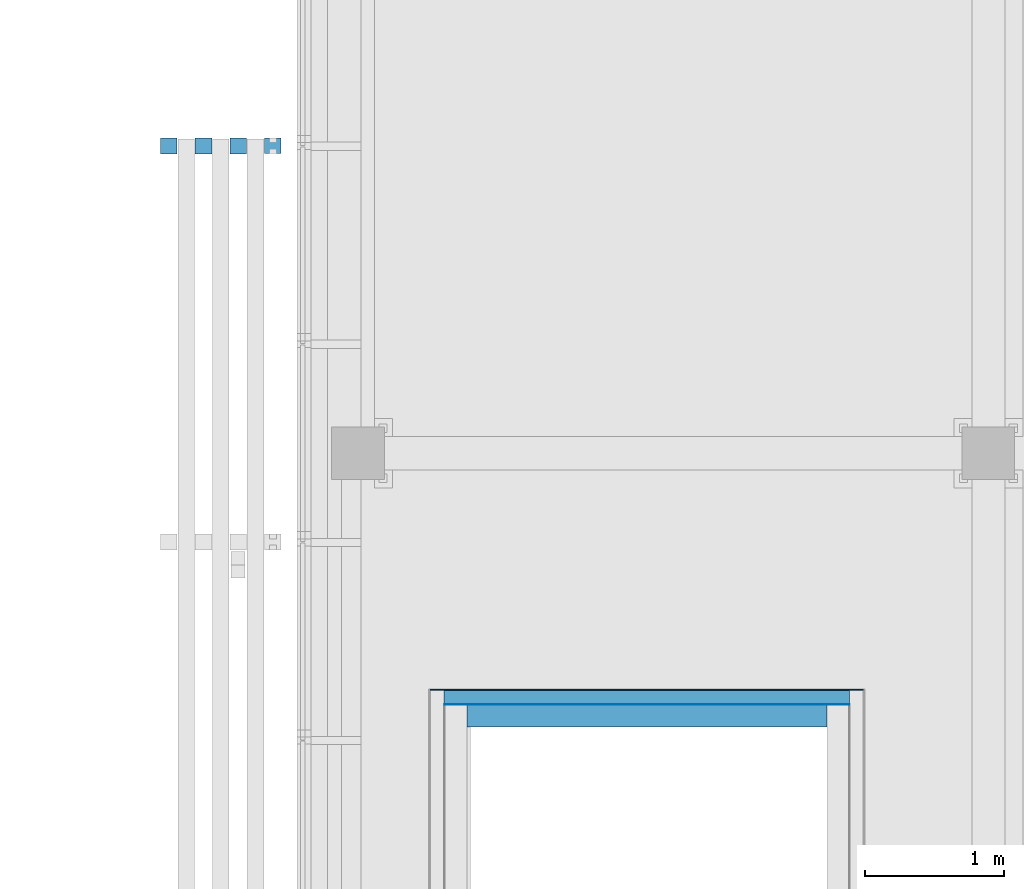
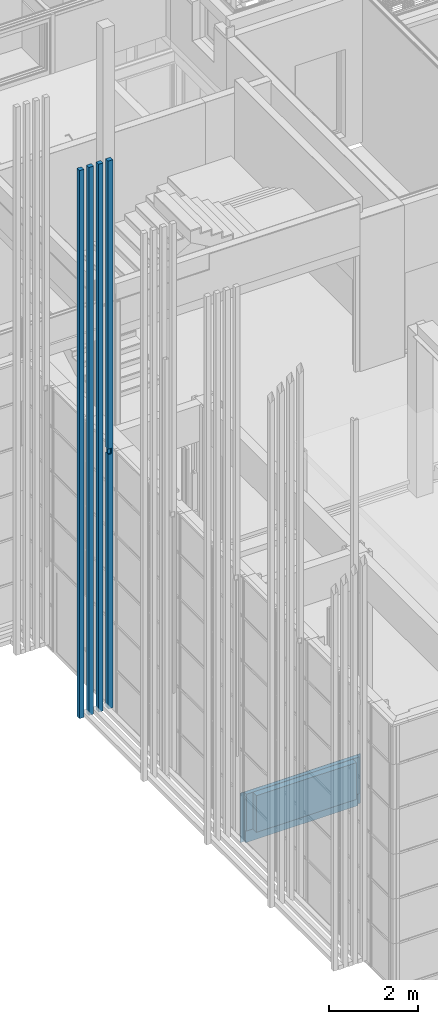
# One storey, part 140 of 260: 4 building element parts, 1 discrete accessory, 1 element without a shape of its own.
"""IFC2X3 building model written with IfcOpenShell, lengths in millimetres."""

from ifc_helpers import new_model, entity, si_unit, converted_unit, derived_unit, money_unit, direction, frame, origin_with_axes, place, context, subcontext, project, spatial, faceted_brep, material, material_list, type_object, element, aggregate, save


model = new_model("IFC2X3")

# Units and contexts
model_context = context("Model", 3, precision=0.01, world=origin_with_axes(), true_north=direction((0.0, 1.0)))
body_context = subcontext(model_context, "Body", "Model", "MODEL_VIEW")
ifc_project = project(units=[si_unit("LENGTHUNIT", "METRE", prefix="MILLI"), si_unit("AREAUNIT", "SQUARE_METRE"), si_unit("VOLUMEUNIT", "CUBIC_METRE"), converted_unit("PLANEANGLEUNIT", "DEGREE", entity("IfcPlaneAngleMeasure", 0.0174532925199), si_unit("PLANEANGLEUNIT", "RADIAN"), dimensions=[0, 0, 0, 0, 0, 0, 0]), money_unit("EUR"), converted_unit("TIMEUNIT", "Year", entity("IfcTimeMeasure", 31556926.0), si_unit("TIMEUNIT", "SECOND"), dimensions=[0, 0, 1, 0, 0, 0, 0]), si_unit("MASSUNIT", "GRAM", prefix="KILO"), si_unit("THERMODYNAMICTEMPERATUREUNIT", "DEGREE_CELSIUS"), si_unit("LUMINOUSINTENSITYUNIT", "LUMEN"), si_unit("ENERGYUNIT", "JOULE", prefix="MEGA"), derived_unit("THERMALCONDUCTANCEUNIT", [(si_unit("POWERUNIT", "WATT"), 1), (si_unit("LENGTHUNIT", "METRE"), -1), (si_unit("THERMODYNAMICTEMPERATUREUNIT", "KELVIN"), -1)]), derived_unit("SPECIFICHEATCAPACITYUNIT", [(si_unit("ENERGYUNIT", "JOULE"), 1), (si_unit("MASSUNIT", "GRAM", prefix="KILO"), -1), (si_unit("THERMODYNAMICTEMPERATUREUNIT", "KELVIN"), -1)]), derived_unit("MASSDENSITYUNIT", [(si_unit("MASSUNIT", "GRAM", prefix="KILO"), 1), (si_unit("VOLUMEUNIT", "CUBIC_METRE"), -1)])], contexts=[model_context])

# Site, building, storey
site_placement = place(None, origin_with_axes())
site = spatial("IfcSite", under=ifc_project, at=site_placement, Name="Kolde pst 67a", CompositionType="ELEMENT")
building_placement = place(site_placement, origin_with_axes())
building = spatial("IfcBuilding", under=site, at=building_placement, Name="Riigigümnaasium", CompositionType="ELEMENT")
storey_placement = place(building_placement, origin_with_axes())
storey = spatial("IfcBuildingStorey", under=building, at=storey_placement, Name="1. korrus", CompositionType="ELEMENT", Elevation=0.0)

# Discrete accessory
ifc_material_1 = material(Name="_VÄLISVIIMISTLUS - sõrmjätkatud puitprussid 120x115mm, liitekohad vähemärgatavad, Platowood sõrmjätkatud kuusk või samaväärne; eeltöödeldud tuletõkkevõõbaga, tuletundlikkus B-s1, d0, Woodsafe Exterior WFX™ või samaväärne; kinnitused vastavalt EK osale")
ifc_material_list = material_list([ifc_material_1, ifc_material_1, ifc_material_1, ifc_material_1])
discrete_accessory_type = type_object("IfcDiscreteAccessoryType", Name="120 4-ne vertikaalne 870 x 115")
discrete_accessory_placement = place(storey_placement, frame((47687.9824571, 19656.7791441, 280.0), z_axis=(0.0, 0.0, 1.0), x_axis=(-0.999999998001, -6.32316306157e-05, 0.0)))
element("IfcDiscreteAccessory", 1, at=discrete_accessory_placement, inside=storey, type_object=discrete_accessory_type, material=ifc_material_list, Name="Päikesevarjestus", context=body_context, shape_type="Brep", body=[
    faceted_brep([(47.9924121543, 45.0, 6989.99966445), (133.0, 45.0, 6989.99966445), (133.0, 45.0, 0.0), (13.0, 45.0, 0.0), (13.0, 45.0, 15050.0), (133.0, 45.0, 15050.0), (133.0, 45.0, 7139.99966445), (47.9924121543, 45.0, 7139.99966445), (47.990196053, 9.95264637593, 6989.99966445), (133.0, 9.94727106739, 6989.99966445), (133.0, 9.94727106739, 7139.99966445), (133.0, -70.0, 15050.0), (133.0, -70.0, 7139.99966445), (133.0, -34.9625030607, 7139.99966445), (133.0, -34.9625030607, 6989.99966445), (133.0, -70.0, 6989.99966445), (133.0, -70.0, 0.0), (13.0, -70.0, 0.0), (13.0, -70.0, 15050.0), (47.990196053, 9.95264637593, 7139.99966445), (47.9851405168, -70.0, 6989.99966445), (47.9851405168, -70.0, 7139.99966445), (47.9873563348, -34.9571275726, 7139.99966445), (47.9873563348, -34.9571275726, 6989.99966445)], [[[0, 1, 2, 3, 4, 5, 6, 7]], [[1, 0, 8, 9]], [[10, 6, 5, 11, 12, 13, 14, 15, 16, 2, 1, 9]], [[3, 2, 16, 17]], [[4, 3, 17, 18]], [[11, 5, 4, 18]], [[7, 6, 10, 19]], [[0, 7, 19, 8]], [[10, 9, 8, 19]], [[15, 20, 21, 12, 11, 18, 17, 16]], [[12, 21, 22, 13]], [[14, 13, 22, 23]], [[20, 15, 14, 23]], [[21, 20, 23, 22]]]),
    faceted_brep([(383.0, 45.0, 0.0), (263.0, 45.0, 0.0), (263.0, 45.0, 15050.0), (383.0, 45.0, 15050.0), (383.0, -70.0, 0.0), (263.0, -70.0, 0.0), (263.0, -70.0, 15050.0), (383.0, -70.0, 15050.0)], [[[0, 1, 2, 3]], [[0, 4, 5, 1]], [[1, 5, 6, 2]], [[3, 2, 6, 7]], [[4, 0, 3, 7]], [[5, 4, 7, 6]]]),
    faceted_brep([(633.0, 45.0, 0.0), (513.0, 45.0, 0.0), (513.0, 45.0, 15050.0), (633.0, 45.0, 15050.0), (633.0, -70.0, 0.0), (513.0, -70.0, 0.0), (513.0, -70.0, 15050.0), (633.0, -70.0, 15050.0)], [[[0, 1, 2, 3]], [[0, 4, 5, 1]], [[1, 5, 6, 2]], [[3, 2, 6, 7]], [[4, 0, 3, 7]], [[5, 4, 7, 6]]]),
    faceted_brep([(883.0, 45.0, 0.0), (763.0, 45.0, 0.0), (763.0, 45.0, 15050.0), (883.0, 45.0, 15050.0), (883.0, -70.0, 0.0), (763.0, -70.0, 0.0), (763.0, -70.0, 15050.0), (883.0, -70.0, 15050.0)], [[[0, 1, 2, 3]], [[0, 4, 5, 1]], [[1, 5, 6, 2]], [[3, 2, 6, 7]], [[4, 0, 3, 7]], [[5, 4, 7, 6]]]),
])

# Wall, building element parts
wall_type = type_object("IfcWallType", Name="VS-RB-16/1_mullakast 273", PredefinedType="NOTDEFINED")
wall_placement = place(storey_placement, frame((51774.9898134, 15634.9809575, -1460.1), z_axis=(0.0, 0.0, 1.0), x_axis=(-1.0, 0.0, 0.0)))
wall = element("IfcWall", 2, at=wall_placement, inside=storey, type_object=wall_type, Name="taimekast")
ifc_material_2 = material(Name="_KANDETARIND - monoliitne raudbetoon vastavalt EK osale")
building_element_part_1_placement = place(wall_placement, origin_with_axes())
building_element_part_1 = element("IfcBuildingElementPart", 3, at=building_element_part_1_placement, material=ifc_material_2, Name="_KANDETARIND - monoliitne raudbetoon vastavalt EK osale", context=body_context, shape_type="Brep", body=[
    faceted_brep([(160.0, 160.0, 350.1), (160.0, 0.0, 350.1), (160.0, 0.0, 1360.1), (160.0, 160.0, 1360.1), (2760.0, 0.0, 350.1), (2760.0, 160.0, 350.1), (2760.0, 0.0, 1360.1), (2760.0, 160.0, 1360.1)], [[[0, 1, 2, 3]], [[4, 1, 0, 5]], [[1, 4, 6, 2]], [[6, 7, 3, 2]], [[5, 0, 3, 7]], [[4, 5, 7, 6]]]),
])
ifc_material_3 = material(Name="_HÜDROISOLATSIOON/RADOONITÕKE - eelpaigaldatav elastne hüdroisolatsioonimembraan, värske betooniga nakkuv, radoonitihe, FORSOC PROOFEX 3000 või samaväärne")
building_element_part_2_placement = place(wall_placement, origin_with_axes())
building_element_part_2 = element("IfcBuildingElementPart", 4, at=building_element_part_2_placement, material=ifc_material_3, Name="_HÜDROISOLATSIOON/RADOONITÕKE - eelpaigaldatav elastne hüdroisolatsioonimembraan, värske betooniga nakkuv, radoonitihe, FORSOC PROOFEX 3000 või samaväärne", context=body_context, shape_type="Brep", body=[
    faceted_brep([(0.0, 0.0, 350.1), (0.0, -3.0, 350.1), (0.0, -3.0, 1360.1), (0.0, 0.0, 1360.1), (2920.0, -3.0, 350.1), (2920.0, 0.0, 350.1), (2920.0, -3.0, 1360.1), (2920.0, 0.0, 1360.1)], [[[0, 1, 2, 3]], [[4, 1, 0, 5]], [[1, 4, 6, 2]], [[6, 7, 3, 2]], [[5, 0, 3, 7]], [[4, 5, 7, 6]]]),
])
ifc_material_4 = material(Name="_SOOJUSTUS - vahtpolüstüreenplaadid EPS 120 Perimeeter, survetugevus min. 120kPa, veeimavus <2%, soojuserijuhtivus λD<0,036 W/(mK)")
building_element_part_3_placement = place(wall_placement, origin_with_axes())
building_element_part_3 = element("IfcBuildingElementPart", 5, at=building_element_part_3_placement, material=ifc_material_4, Name="_SOOJUSTUS - vahtpolüstüreenplaadid EPS 120 Perimeeter, survetugevus min. 120kPa, veeimavus <2%, soojuserijuhtivus λD<0,036 W/(mK)", context=body_context, shape_type="Brep", body=[
    faceted_brep([(-3.0, -43.0, 350.1), (-3.0, -43.0, 0.0), (-3.0, -103.0, 0.0), (-3.0, -103.0, 1360.1), (-3.0, -3.0, 1360.1), (-3.0, -3.0, 350.1), (2923.0, -43.0, 350.1), (2923.0, -43.0, 0.0), (2923.0, -103.0, 0.0), (2923.0, -103.0, 1360.1), (2923.0, -3.0, 1360.1), (2923.0, -3.0, 350.1)], [[[0, 1, 2, 3, 4, 5]], [[1, 0, 6, 7]], [[1, 7, 8, 2]], [[8, 9, 3, 2]], [[9, 10, 4, 3]], [[11, 5, 4, 10]], [[0, 5, 11, 6]], [[6, 11, 10, 9, 8, 7]]]),
])
ifc_material_5 = material(Name="_ALUSKATE - drenaaži- ja kaitsematt geotekstiiliga soojustuse kaitseks, Interplast Iso-Drain 8 Geo või samaväärne")
building_element_part_4_placement = place(wall_placement, origin_with_axes())
building_element_part_4 = element("IfcBuildingElementPart", 6, at=building_element_part_4_placement, material=ifc_material_5, Name="_ALUSKATE - drenaaži- ja kaitsematt geotekstiiliga soojustuse kaitseks, Interplast Iso-Drain 8 Geo või samaväärne", context=body_context, shape_type="Brep", body=[
    faceted_brep([(3023.0, -113.0, 0.0), (-103.0, -113.0, 0.0), (-103.0, -103.0, 0.0), (3023.0, -103.0, 0.0), (3023.0, -113.0, 1360.1), (-103.0, -113.0, 1360.1), (-103.0, -103.0, 1360.1), (3023.0, -103.0, 1360.1)], [[[0, 1, 2, 3]], [[4, 5, 1, 0]], [[2, 1, 5, 6]], [[3, 2, 6, 7]], [[3, 7, 4, 0]], [[7, 6, 5, 4]]]),
])
aggregate(wall, [building_element_part_1, building_element_part_2, building_element_part_3, building_element_part_4])

save(model, "model.ifc")
